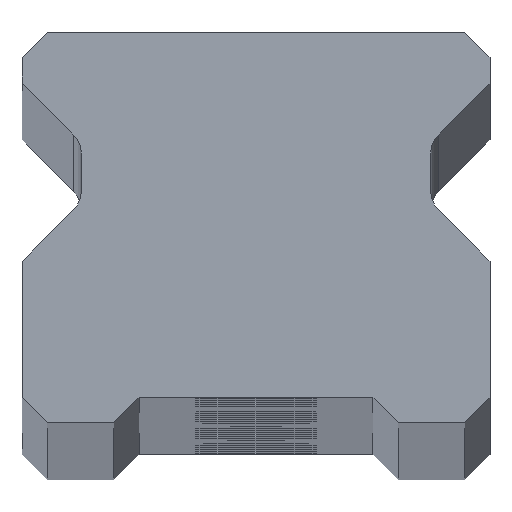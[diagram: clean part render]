
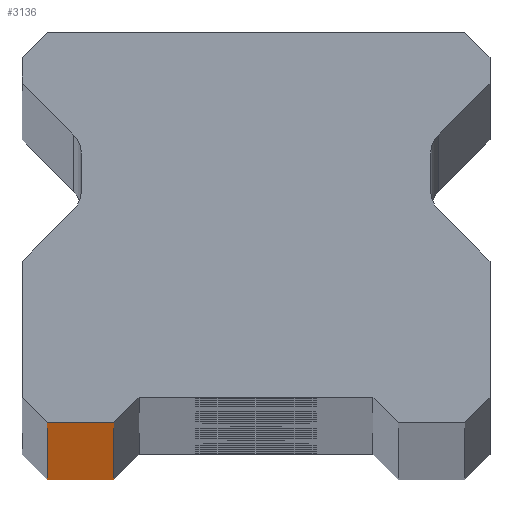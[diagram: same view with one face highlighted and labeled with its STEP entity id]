
A CAD part, top view. The second image highlights one B-rep face of the part: STEP entity #3136.
In plain terms, the highlighted planar face has unit normal (0, -1, 0).
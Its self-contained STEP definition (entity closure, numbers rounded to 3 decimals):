
#24 = DIRECTION ( 'NONE',  ( 0., 0., 1. ) ) ;
#45 = DIRECTION ( 'NONE',  ( 1., 0., 0. ) ) ;
#68 = VERTEX_POINT ( 'NONE', #1741 ) ;
#421 = CARTESIAN_POINT ( 'NONE',  ( -10.25, 0., 800. ) ) ;
#434 = FACE_OUTER_BOUND ( 'NONE', #4036, .T. ) ;
#522 = LINE ( 'NONE', #1606, #2013 ) ;
#606 = AXIS2_PLACEMENT_3D ( 'NONE', #687, #2904, #4722 ) ;
#687 = CARTESIAN_POINT ( 'NONE',  ( 11.5, 0., 800. ) ) ;
#837 = EDGE_CURVE ( 'NONE', #5788, #68, #522, .T. ) ;
#881 = CARTESIAN_POINT ( 'NONE',  ( -7., 0., -800. ) ) ;
#1385 = LINE ( 'NONE', #2996, #2804 ) ;
#1439 = CARTESIAN_POINT ( 'NONE',  ( 11.5, 0., -800. ) ) ;
#1606 = CARTESIAN_POINT ( 'NONE',  ( 11.5, 0., 800. ) ) ;
#1701 = LINE ( 'NONE', #1439, #3614 ) ;
#1741 = CARTESIAN_POINT ( 'NONE',  ( -7., 0., 800. ) ) ;
#1989 = VECTOR ( 'NONE', #24, 1000. ) ;
#2013 = VECTOR ( 'NONE', #3359, 1000. ) ;
#2471 = EDGE_CURVE ( 'NONE', #4258, #4635, #1701, .T. ) ;
#2558 = DIRECTION ( 'NONE',  ( 0., 0., -1. ) ) ;
#2804 = VECTOR ( 'NONE', #2558, 1000. ) ;
#2904 = DIRECTION ( 'NONE',  ( 0., 1., 0. ) ) ;
#2996 = CARTESIAN_POINT ( 'NONE',  ( -10.25, 0., 800. ) ) ;
#3136 = ADVANCED_FACE ( 'NONE', ( #434 ), #4273, .F. ) ;
#3335 = LINE ( 'NONE', #881, #1989 ) ;
#3359 = DIRECTION ( 'NONE',  ( 1., 0., 0. ) ) ;
#3429 = EDGE_CURVE ( 'NONE', #4635, #68, #3335, .T. ) ;
#3614 = VECTOR ( 'NONE', #45, 1000. ) ;
#4036 = EDGE_LOOP ( 'NONE', ( #4161, #4549, #4810, #5867 ) ) ;
#4161 = ORIENTED_EDGE ( 'NONE', *, *, #2471, .T. ) ;
#4258 = VERTEX_POINT ( 'NONE', #4855 ) ;
#4273 = PLANE ( 'NONE',  #606 ) ;
#4549 = ORIENTED_EDGE ( 'NONE', *, *, #3429, .T. ) ;
#4635 = VERTEX_POINT ( 'NONE', #5671 ) ;
#4722 = DIRECTION ( 'NONE',  ( -1., 0., 0. ) ) ;
#4810 = ORIENTED_EDGE ( 'NONE', *, *, #837, .F. ) ;
#4855 = CARTESIAN_POINT ( 'NONE',  ( -10.25, 0., -800. ) ) ;
#5671 = CARTESIAN_POINT ( 'NONE',  ( -7., 0., -800. ) ) ;
#5714 = EDGE_CURVE ( 'NONE', #5788, #4258, #1385, .T. ) ;
#5788 = VERTEX_POINT ( 'NONE', #421 ) ;
#5867 = ORIENTED_EDGE ( 'NONE', *, *, #5714, .T. ) ;
